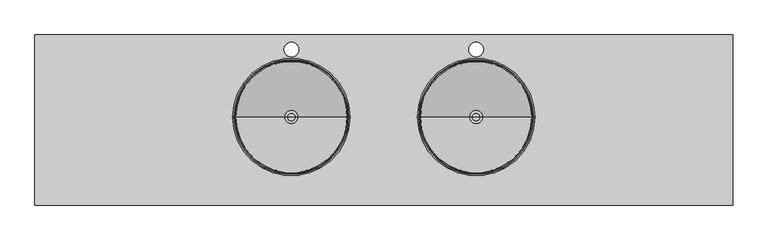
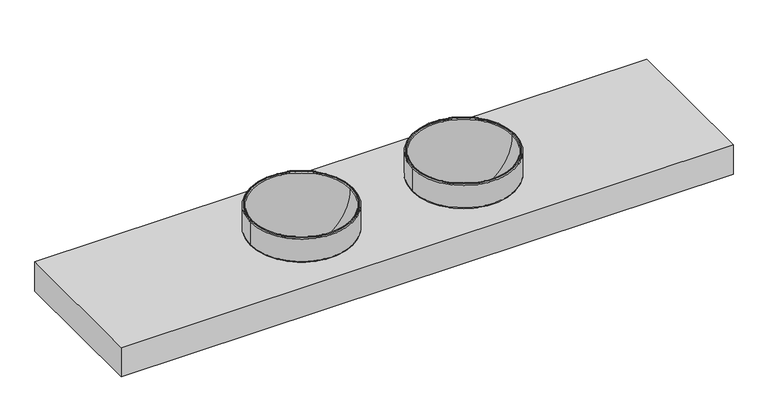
"""IFC4 building model written with IfcOpenShell, lengths in millimetres: flow terminal geometry, CUBIERTA BAÑO : CUBIERTA BAÑO 238CM."""

from ifc_helpers import new_model, si_unit, point, frame, origin, place, context, project, spatial, polyline, circle_curve, ellipse_curve, trimmed, source, transform, mapped, element, save
from ifc_brep_helpers import plane_surface, cylinder_surface, revolved_surface, advanced_brep


def flow_terminal_776c35a8(model_context):
    return source(origin(), model_context, "Body", "AdvancedBrep", [
        advanced_brep(
        [(559.7003264, -280.0, 755.0254698), (159.7003264, -280.0, 755.0254698), (164.7257963, -280.0, 750.0), (554.6748566, -280.0, 750.0), (559.7003264, -280.0, 847.1369003), (159.7003264, -280.0, 847.1369003), (556.5666099, -280.0, 850.2706168), (162.834043, -280.0, 850.2706168), (552.8264261, -280.0, 850.2706168), (166.5742268, -280.0, 850.2706168), (549.9406449, -280.0, 847.3848356), (169.460008, -280.0, 847.3848356), (376.6370457, -280.0, 659.6971154), (342.7636072, -280.0, 659.6971154), (376.6370457, -280.0, 649.6794237), (342.7636072, -280.0, 649.6794237), (549.6748566, -280.0, 781.4886928), (169.7257963, -280.0, 781.4886928), (549.6748566, -280.0, 750.0), (169.7257963, -280.0, 750.0)],
        [
            (0, 1, circle_curve(frame((359.7003264, -280.0, 755.0254698), z_axis=(0.0, 0.0, -1.0), x_axis=(-1.0, 0.0, 0.0)), 200.0)),
            (1, 2, circle_curve(frame((164.7257963, -280.0, 755.0254698), z_axis=(0.0, -1.0, 0.0), x_axis=(-1.0, 0.0, 0.0)), 5.0254698)),
            (2, 3, circle_curve(frame((359.7003264, -280.0, 750.0), z_axis=(0.0, 0.0, 1.0), x_axis=(-1.0, 0.0, 0.0)), 194.9745302)),
            (3, 0, circle_curve(frame((554.6748566, -280.0, 755.0254698), z_axis=(0.0, -1.0, 0.0), x_axis=(1.0, 0.0, 0.0)), 5.0254698)),
            (1, 0, circle_curve(frame((359.7003264, -280.0, 755.0254698), z_axis=(0.0, 0.0, -1.0), x_axis=(-1.0, 0.0, 0.0)), 200.0)),
            (3, 2, circle_curve(frame((359.7003264, -280.0, 750.0), z_axis=(0.0, 0.0, 1.0), x_axis=(-1.0, 0.0, 0.0)), 194.9745302)),
            (4, 5, circle_curve(frame((359.7003264, -280.0, 847.1369003), z_axis=(0.0, 0.0, -1.0), x_axis=(-1.0, 0.0, 0.0)), 200.0)),
            (5, 1),
            (0, 4),
            (5, 4, circle_curve(frame((359.7003264, -280.0, 847.1369003), z_axis=(0.0, 0.0, -1.0), x_axis=(-1.0, 0.0, 0.0)), 200.0)),
            (6, 7, circle_curve(frame((359.7003264, -280.0, 850.2706168), z_axis=(0.0, 0.0, -1.0), x_axis=(-1.0, 0.0, 0.0)), 196.8662835)),
            (7, 5, circle_curve(frame((162.834043, -280.0, 847.1369003), z_axis=(0.0, -1.0, 0.0), x_axis=(-1.0, 0.0, 0.0)), 3.1337165)),
            (4, 6, circle_curve(frame((556.5666099, -280.0, 847.1369003), z_axis=(0.0, -1.0, 0.0), x_axis=(1.0, 0.0, 0.0)), 3.1337165)),
            (7, 6, circle_curve(frame((359.7003264, -280.0, 850.2706168), z_axis=(0.0, 0.0, -1.0), x_axis=(-1.0, 0.0, 0.0)), 196.8662835)),
            (8, 9, circle_curve(frame((359.7003264, -280.0, 850.2706168), z_axis=(0.0, 0.0, -1.0), x_axis=(-1.0, 0.0, 0.0)), 193.1260997)),
            (9, 7),
            (6, 8),
            (9, 8, circle_curve(frame((359.7003264, -280.0, 850.2706168), z_axis=(0.0, 0.0, -1.0), x_axis=(-1.0, 0.0, 0.0)), 193.1260997)),
            (10, 11, circle_curve(frame((359.7003264, -280.0, 847.3848356), z_axis=(0.0, 0.0, -1.0), x_axis=(-1.0, 0.0, 0.0)), 190.2403184)),
            (11, 9, circle_curve(frame((166.5742268, -280.0, 847.3848356), z_axis=(0.0, -1.0, 0.0), x_axis=(-1.0, 0.0, 0.0)), 2.8857812)),
            (8, 10, circle_curve(frame((552.8264261, -280.0, 847.3848356), z_axis=(0.0, -1.0, 0.0), x_axis=(1.0, 0.0, 0.0)), 2.8857812)),
            (11, 10, circle_curve(frame((359.7003264, -280.0, 847.3848356), z_axis=(0.0, 0.0, -1.0), x_axis=(-1.0, 0.0, 0.0)), 190.2403184)),
            (12, 13, circle_curve(frame((359.7003264, -280.0, 659.6971154), z_axis=(0.0, 0.0, -1.0), x_axis=(-1.0, 0.0, 0.0)), 16.9367193)),
            (13, 11, circle_curve(frame((354.0281906, -280.0, 843.9531856), z_axis=(0.0, 1.0, 0.0), x_axis=(-1.0, 0.0, 0.0)), 184.6000819)),
            (10, 12, circle_curve(frame((365.3724623, -280.0, 843.9531856), z_axis=(0.0, 1.0, 0.0), x_axis=(1.0, 0.0, 0.0)), 184.6000819)),
            (13, 12, circle_curve(frame((359.7003264, -280.0, 659.6971154), z_axis=(0.0, 0.0, -1.0), x_axis=(-1.0, 0.0, 0.0)), 16.9367193)),
            (14, 15, circle_curve(frame((359.7003264, -280.0, 649.6794237), z_axis=(0.0, 0.0, -1.0), x_axis=(-1.0, 0.0, 0.0)), 16.9367193)),
            (15, 13),
            (12, 14),
            (15, 14, circle_curve(frame((359.7003264, -280.0, 649.6794237), z_axis=(0.0, 0.0, -1.0), x_axis=(-1.0, 0.0, 0.0)), 16.9367193)),
            (16, 17, circle_curve(frame((359.7003264, -280.0, 781.4886928), z_axis=(0.0, 0.0, -1.0), x_axis=(-1.0, 0.0, 0.0)), 189.9745302)),
            (17, 15, circle_curve(frame((354.0281906, -280.0, 843.9531856), z_axis=(0.0, -1.0, 0.0), x_axis=(-1.0, 0.0, 0.0)), 194.6000653)),
            (14, 16, circle_curve(frame((365.3724623, -280.0, 843.9531856), z_axis=(0.0, -1.0, 0.0), x_axis=(1.0, 0.0, 0.0)), 194.6000653)),
            (17, 16, circle_curve(frame((359.7003264, -280.0, 781.4886928), z_axis=(0.0, 0.0, -1.0), x_axis=(-1.0, 0.0, 0.0)), 189.9745302)),
            (18, 19, circle_curve(frame((359.7003264, -280.0, 750.0), z_axis=(0.0, 0.0, -1.0), x_axis=(-1.0, 0.0, 0.0)), 189.9745302)),
            (19, 17),
            (16, 18),
            (19, 18, circle_curve(frame((359.7003264, -280.0, 750.0), z_axis=(0.0, 0.0, -1.0), x_axis=(-1.0, 0.0, 0.0)), 189.9745302)),
            (2, 19),
            (18, 3),
        ],
        [
            revolved_surface(trimmed(ellipse_curve(frame((164.7257963, -280.0, 755.0254698), z_axis=(0.0, 1.0, 0.0), x_axis=(-1.0, 0.0, 0.0)), 5.0254698, 5.0254698), [point((164.7257963, -280.0, 750.0))], [point((159.7003264, -280.0, 755.0254698))], True, "CARTESIAN"), (359.7003264, -280.0, 700.0), (0.0, 0.0, 1.0)),
            cylinder_surface(frame((359.7003264, -280.0, 700.0), z_axis=(0.0, 0.0, 1.0), x_axis=(-1.0, 0.0, 0.0)), 200.0),
            revolved_surface(trimmed(ellipse_curve(frame((162.834043, -280.0, 847.1369003), z_axis=(0.0, 1.0, 0.0), x_axis=(-1.0, 0.0, 0.0)), 3.1337165, 3.1337165), [point((159.7003264, -280.0, 847.1369003))], [point((162.834043, -280.0, 850.2706168))], True, "CARTESIAN"), (359.7003264, -280.0, 700.0), (0.0, 0.0, 1.0)),
            plane_surface(frame((359.7003264, -280.0, 850.2706168), z_axis=(0.0, 0.0, 1.0), x_axis=(-1.0, 0.0, 0.0))),
            revolved_surface(trimmed(ellipse_curve(frame((166.5742268, -280.0, 847.3848356), z_axis=(0.0, 1.0, 0.0), x_axis=(-1.0, 0.0, 0.0)), 2.8857812, 2.8857812), [point((166.5742268, -280.0, 850.2706168))], [point((169.460008, -280.0, 847.3848356))], True, "CARTESIAN"), (359.7003264, -280.0, 700.0), (0.0, 0.0, 1.0)),
            revolved_surface(trimmed(ellipse_curve(frame((354.0281906, -280.0, 843.9531856), z_axis=(0.0, -1.0, 0.0), x_axis=(-1.0, 0.0, 0.0)), 184.6000819, 184.6000819), [point((169.460008, -280.0, 847.3848356))], [point((342.7636072, -280.0, 659.6971154))], True, "CARTESIAN"), (359.7003264, -280.0, 700.0), (0.0, 0.0, 1.0)),
            revolved_surface(polyline([(342.7636071, -280.0, 659.6971154), (342.7636071, -280.0, 649.6794237)]), (359.7003264, -280.0, 700.0), (0.0, 0.0, 1.0)),
            revolved_surface(trimmed(ellipse_curve(frame((354.0281906, -280.0, 843.9531856), z_axis=(0.0, 1.0, 0.0), x_axis=(-1.0, 0.0, 0.0)), 194.6000653, 194.6000653), [point((342.7636072, -280.0, 649.6794237))], [point((169.7257963, -280.0, 781.4886928))], True, "CARTESIAN"), (359.7003264, -280.0, 700.0), (0.0, 0.0, 1.0)),
            revolved_surface(polyline([(169.7257962, -280.0, 781.4886928), (169.7257962, -280.0, 750.0)]), (359.7003264, -280.0, 700.0), (0.0, 0.0, 1.0)),
            plane_surface(frame((359.7003264, -280.0, 750.0), z_axis=(0.0, 0.0, -1.0), x_axis=(-1.0, 0.0, 0.0))),
        ],
        [
            (0, [[1, 2, 3, 4]]),
            (0, [[5, -4, 6, -2]]),
            (1, [[7, 8, -1, 9]]),
            (1, [[10, -9, -5, -8]]),
            (2, [[11, 12, -7, 13]]),
            (2, [[14, -13, -10, -12]]),
            (3, [[15, 16, -11, 17]]),
            (3, [[18, -17, -14, -16]]),
            (4, [[19, 20, -15, 21]]),
            (4, [[22, -21, -18, -20]]),
            (5, [[23, 24, -19, 25]]),
            (5, [[26, -25, -22, -24]]),
            (6, [[27, 28, -23, 29]]),
            (6, [[30, -29, -26, -28]]),
            (7, [[31, 32, -27, 33]]),
            (7, [[34, -33, -30, -32]]),
            (8, [[35, 36, -31, 37]]),
            (8, [[38, -37, -34, -36]]),
            (9, [[-3, 39, -35, 40]]),
            (9, [[-6, -40, -38, -39]]),
        ],
    ),
        advanced_brep(
        [(373.4382327, -280.0, 661.875), (345.9624201, -280.0, 661.875), (337.7003264, -280.0, 661.875), (381.7003264, -280.0, 661.875), (373.4382327, -280.0, 643.7247134), (345.9624201, -280.0, 643.7247134), (359.7003264, -280.0, 643.7247134), (376.7003264, -280.0, 640.0), (342.7003264, -280.0, 640.0), (359.7003264, -280.0, 640.0), (376.7003264, -280.0, 660.339751), (342.7003264, -280.0, 660.339751), (381.7003264, -280.0, 660.339751), (337.7003264, -280.0, 660.339751)],
        [
            (0, 1, circle_curve(frame((359.7003264, -280.0, 661.875), z_axis=(0.0, 0.0, -1.0), x_axis=(-1.0, 0.0, 0.0)), 13.7379063)),
            (1, 2),
            (2, 3, circle_curve(frame((359.7003264, -280.0, 661.875), z_axis=(0.0, 0.0, 1.0), x_axis=(-1.0, 0.0, 0.0)), 22.0)),
            (3, 0),
            (1, 0, circle_curve(frame((359.7003264, -280.0, 661.875), z_axis=(0.0, 0.0, -1.0), x_axis=(-1.0, 0.0, 0.0)), 13.7379063)),
            (3, 2, circle_curve(frame((359.7003264, -280.0, 661.875), z_axis=(0.0, 0.0, 1.0), x_axis=(-1.0, 0.0, 0.0)), 22.0)),
            (4, 5, circle_curve(frame((359.7003264, -280.0, 643.7247134), z_axis=(0.0, 0.0, -1.0), x_axis=(-1.0, 0.0, 0.0)), 13.7379063)),
            (5, 1),
            (0, 4),
            (5, 4, circle_curve(frame((359.7003264, -280.0, 643.7247134), z_axis=(0.0, 0.0, -1.0), x_axis=(-1.0, 0.0, 0.0)), 13.7379063)),
            (6, 5),
            (4, 6),
            (7, 8, circle_curve(frame((359.7003264, -280.0, 640.0), z_axis=(0.0, 0.0, -1.0), x_axis=(-1.0, 0.0, 0.0)), 17.0)),
            (8, 9),
            (9, 7),
            (8, 7, circle_curve(frame((359.7003264, -280.0, 640.0), z_axis=(0.0, 0.0, -1.0), x_axis=(-1.0, 0.0, 0.0)), 17.0)),
            (10, 11, circle_curve(frame((359.7003264, -280.0, 660.339751), z_axis=(0.0, 0.0, -1.0), x_axis=(-1.0, 0.0, 0.0)), 17.0)),
            (11, 8),
            (7, 10),
            (11, 10, circle_curve(frame((359.7003264, -280.0, 660.339751), z_axis=(0.0, 0.0, -1.0), x_axis=(-1.0, 0.0, 0.0)), 17.0)),
            (12, 13, circle_curve(frame((359.7003264, -280.0, 660.339751), z_axis=(0.0, 0.0, -1.0), x_axis=(-1.0, 0.0, 0.0)), 22.0)),
            (13, 11),
            (10, 12),
            (13, 12, circle_curve(frame((359.7003264, -280.0, 660.339751), z_axis=(0.0, 0.0, -1.0), x_axis=(-1.0, 0.0, 0.0)), 22.0)),
            (2, 13),
            (12, 3),
        ],
        [
            plane_surface(frame((359.7003264, -280.0, 661.875), z_axis=(0.0, 0.0, 1.0), x_axis=(-1.0, 0.0, 0.0))),
            revolved_surface(polyline([(345.9624201, -280.0, 661.875), (345.9624201, -280.0, 643.7247134)]), (359.7003264, -280.0, 639.8833255), (0.0, 0.0, 1.0)),
            plane_surface(frame((359.7003264, -280.0, 643.7247134), z_axis=(0.0, 0.0, 1.0), x_axis=(-1.0, 0.0, 0.0))),
            plane_surface(frame((359.7003264, -280.0, 640.0), z_axis=(0.0, 0.0, -1.0), x_axis=(-1.0, 0.0, 0.0))),
            cylinder_surface(frame((359.7003264, -280.0, 639.8833255), z_axis=(0.0, 0.0, 1.0), x_axis=(-1.0, 0.0, 0.0)), 17.0),
            plane_surface(frame((359.7003264, -280.0, 660.339751), z_axis=(0.0, 0.0, -1.0), x_axis=(-1.0, 0.0, 0.0))),
            cylinder_surface(frame((359.7003264, -280.0, 639.8833255), z_axis=(0.0, 0.0, 1.0), x_axis=(-1.0, 0.0, 0.0)), 22.0),
        ],
        [
            (0, [[1, 2, 3, 4]]),
            (0, [[5, -4, 6, -2]]),
            (1, [[7, 8, -1, 9]]),
            (1, [[10, -9, -5, -8]]),
            (2, [[11, -7, 12]]),
            (2, [[-12, -10, -11]]),
            (3, [[13, 14, 15]]),
            (3, [[16, -15, -14]]),
            (4, [[17, 18, -13, 19]]),
            (4, [[20, -19, -16, -18]]),
            (5, [[21, 22, -17, 23]]),
            (5, [[24, -23, -20, -22]]),
            (6, [[-3, 25, -21, 26]]),
            (6, [[-6, -26, -24, -25]]),
        ],
    ),
        advanced_brep(
        [(-70.2996736, -280.0, 755.0254698), (-470.2996736, -280.0, 755.0254698), (-465.2742037, -280.0, 750.0), (-75.3251434, -280.0, 750.0), (-70.2996736, -280.0, 847.1369003), (-470.2996736, -280.0, 847.1369003), (-73.4333901, -280.0, 850.2706168), (-467.165957, -280.0, 850.2706168), (-77.1735739, -280.0, 850.2706168), (-463.4257732, -280.0, 850.2706168), (-80.0593551, -280.0, 847.3848356), (-460.539992, -280.0, 847.3848356), (-253.3629543, -280.0, 659.6971154), (-287.2363928, -280.0, 659.6971154), (-253.3629543, -280.0, 649.6794237), (-287.2363928, -280.0, 649.6794237), (-80.3251434, -280.0, 781.4886928), (-460.2742037, -280.0, 781.4886928), (-80.3251434, -280.0, 750.0), (-460.2742037, -280.0, 750.0)],
        [
            (0, 1, circle_curve(frame((-270.2996736, -280.0, 755.0254698), z_axis=(0.0, 0.0, -1.0), x_axis=(-1.0, 0.0, 0.0)), 200.0)),
            (1, 2, circle_curve(frame((-465.2742037, -280.0, 755.0254698), z_axis=(0.0, -1.0, 0.0), x_axis=(-1.0, 0.0, 0.0)), 5.0254698)),
            (2, 3, circle_curve(frame((-270.2996736, -280.0, 750.0), z_axis=(0.0, 0.0, 1.0), x_axis=(-1.0, 0.0, 0.0)), 194.9745302)),
            (3, 0, circle_curve(frame((-75.3251434, -280.0, 755.0254698), z_axis=(0.0, -1.0, 0.0), x_axis=(1.0, 0.0, 0.0)), 5.0254698)),
            (1, 0, circle_curve(frame((-270.2996736, -280.0, 755.0254698), z_axis=(0.0, 0.0, -1.0), x_axis=(-1.0, 0.0, 0.0)), 200.0)),
            (3, 2, circle_curve(frame((-270.2996736, -280.0, 750.0), z_axis=(0.0, 0.0, 1.0), x_axis=(-1.0, 0.0, 0.0)), 194.9745302)),
            (4, 5, circle_curve(frame((-270.2996736, -280.0, 847.1369003), z_axis=(0.0, 0.0, -1.0), x_axis=(-1.0, 0.0, 0.0)), 200.0)),
            (5, 1),
            (0, 4),
            (5, 4, circle_curve(frame((-270.2996736, -280.0, 847.1369003), z_axis=(0.0, 0.0, -1.0), x_axis=(-1.0, 0.0, 0.0)), 200.0)),
            (6, 7, circle_curve(frame((-270.2996736, -280.0, 850.2706168), z_axis=(0.0, 0.0, -1.0), x_axis=(-1.0, 0.0, 0.0)), 196.8662835)),
            (7, 5, circle_curve(frame((-467.165957, -280.0, 847.1369003), z_axis=(0.0, -1.0, 0.0), x_axis=(-1.0, 0.0, 0.0)), 3.1337165)),
            (4, 6, circle_curve(frame((-73.4333901, -280.0, 847.1369003), z_axis=(0.0, -1.0, 0.0), x_axis=(1.0, 0.0, 0.0)), 3.1337165)),
            (7, 6, circle_curve(frame((-270.2996736, -280.0, 850.2706168), z_axis=(0.0, 0.0, -1.0), x_axis=(-1.0, 0.0, 0.0)), 196.8662835)),
            (8, 9, circle_curve(frame((-270.2996736, -280.0, 850.2706168), z_axis=(0.0, 0.0, -1.0), x_axis=(-1.0, 0.0, 0.0)), 193.1260997)),
            (9, 7),
            (6, 8),
            (9, 8, circle_curve(frame((-270.2996736, -280.0, 850.2706168), z_axis=(0.0, 0.0, -1.0), x_axis=(-1.0, 0.0, 0.0)), 193.1260997)),
            (10, 11, circle_curve(frame((-270.2996736, -280.0, 847.3848356), z_axis=(0.0, 0.0, -1.0), x_axis=(-1.0, 0.0, 0.0)), 190.2403184)),
            (11, 9, circle_curve(frame((-463.4257732, -280.0, 847.3848356), z_axis=(0.0, -1.0, 0.0), x_axis=(-1.0, 0.0, 0.0)), 2.8857812)),
            (8, 10, circle_curve(frame((-77.1735739, -280.0, 847.3848356), z_axis=(0.0, -1.0, 0.0), x_axis=(1.0, 0.0, 0.0)), 2.8857812)),
            (11, 10, circle_curve(frame((-270.2996736, -280.0, 847.3848356), z_axis=(0.0, 0.0, -1.0), x_axis=(-1.0, 0.0, 0.0)), 190.2403184)),
            (12, 13, circle_curve(frame((-270.2996736, -280.0, 659.6971154), z_axis=(0.0, 0.0, -1.0), x_axis=(-1.0, 0.0, 0.0)), 16.9367193)),
            (13, 11, circle_curve(frame((-275.9718094, -280.0, 843.9531856), z_axis=(0.0, 1.0, 0.0), x_axis=(-1.0, 0.0, 0.0)), 184.6000819)),
            (10, 12, circle_curve(frame((-264.6275377, -280.0, 843.9531856), z_axis=(0.0, 1.0, 0.0), x_axis=(1.0, 0.0, 0.0)), 184.6000819)),
            (13, 12, circle_curve(frame((-270.2996736, -280.0, 659.6971154), z_axis=(0.0, 0.0, -1.0), x_axis=(-1.0, 0.0, 0.0)), 16.9367193)),
            (14, 15, circle_curve(frame((-270.2996736, -280.0, 649.6794237), z_axis=(0.0, 0.0, -1.0), x_axis=(-1.0, 0.0, 0.0)), 16.9367193)),
            (15, 13),
            (12, 14),
            (15, 14, circle_curve(frame((-270.2996736, -280.0, 649.6794237), z_axis=(0.0, 0.0, -1.0), x_axis=(-1.0, 0.0, 0.0)), 16.9367193)),
            (16, 17, circle_curve(frame((-270.2996736, -280.0, 781.4886928), z_axis=(0.0, 0.0, -1.0), x_axis=(-1.0, 0.0, 0.0)), 189.9745302)),
            (17, 15, circle_curve(frame((-275.9718094, -280.0, 843.9531856), z_axis=(0.0, -1.0, 0.0), x_axis=(-1.0, 0.0, 0.0)), 194.6000653)),
            (14, 16, circle_curve(frame((-264.6275377, -280.0, 843.9531856), z_axis=(0.0, -1.0, 0.0), x_axis=(1.0, 0.0, 0.0)), 194.6000653)),
            (17, 16, circle_curve(frame((-270.2996736, -280.0, 781.4886928), z_axis=(0.0, 0.0, -1.0), x_axis=(-1.0, 0.0, 0.0)), 189.9745302)),
            (18, 19, circle_curve(frame((-270.2996736, -280.0, 750.0), z_axis=(0.0, 0.0, -1.0), x_axis=(-1.0, 0.0, 0.0)), 189.9745302)),
            (19, 17),
            (16, 18),
            (19, 18, circle_curve(frame((-270.2996736, -280.0, 750.0), z_axis=(0.0, 0.0, -1.0), x_axis=(-1.0, 0.0, 0.0)), 189.9745302)),
            (2, 19),
            (18, 3),
        ],
        [
            revolved_surface(trimmed(ellipse_curve(frame((-465.2742037, -280.0, 755.0254698), z_axis=(0.0, 1.0, 0.0), x_axis=(-1.0, 0.0, 0.0)), 5.0254698, 5.0254698), [point((-465.2742037, -280.0, 750.0))], [point((-470.2996736, -280.0, 755.0254698))], True, "CARTESIAN"), (-270.2996736, -280.0, 700.0), (0.0, 0.0, 1.0)),
            cylinder_surface(frame((-270.2996736, -280.0, 700.0), z_axis=(0.0, 0.0, 1.0), x_axis=(-1.0, 0.0, 0.0)), 200.0),
            revolved_surface(trimmed(ellipse_curve(frame((-467.165957, -280.0, 847.1369003), z_axis=(0.0, 1.0, 0.0), x_axis=(-1.0, 0.0, 0.0)), 3.1337165, 3.1337165), [point((-470.2996736, -280.0, 847.1369003))], [point((-467.165957, -280.0, 850.2706168))], True, "CARTESIAN"), (-270.2996736, -280.0, 700.0), (0.0, 0.0, 1.0)),
            plane_surface(frame((-270.2996736, -280.0, 850.2706168), z_axis=(0.0, 0.0, 1.0), x_axis=(-1.0, 0.0, 0.0))),
            revolved_surface(trimmed(ellipse_curve(frame((-463.4257732, -280.0, 847.3848356), z_axis=(0.0, 1.0, 0.0), x_axis=(-1.0, 0.0, 0.0)), 2.8857812, 2.8857812), [point((-463.4257732, -280.0, 850.2706168))], [point((-460.539992, -280.0, 847.3848356))], True, "CARTESIAN"), (-270.2996736, -280.0, 700.0), (0.0, 0.0, 1.0)),
            revolved_surface(trimmed(ellipse_curve(frame((-275.9718094, -280.0, 843.9531856), z_axis=(0.0, -1.0, 0.0), x_axis=(-1.0, 0.0, 0.0)), 184.6000819, 184.6000819), [point((-460.539992, -280.0, 847.3848356))], [point((-287.2363928, -280.0, 659.6971154))], True, "CARTESIAN"), (-270.2996736, -280.0, 700.0), (0.0, 0.0, 1.0)),
            revolved_surface(polyline([(-287.2363929, -280.0, 659.6971154), (-287.2363929, -280.0, 649.6794237)]), (-270.2996736, -280.0, 700.0), (0.0, 0.0, 1.0)),
            revolved_surface(trimmed(ellipse_curve(frame((-275.9718094, -280.0, 843.9531856), z_axis=(0.0, 1.0, 0.0), x_axis=(-1.0, 0.0, 0.0)), 194.6000653, 194.6000653), [point((-287.2363928, -280.0, 649.6794237))], [point((-460.2742037, -280.0, 781.4886928))], True, "CARTESIAN"), (-270.2996736, -280.0, 700.0), (0.0, 0.0, 1.0)),
            revolved_surface(polyline([(-460.2742038, -280.0, 781.4886928), (-460.2742038, -280.0, 750.0)]), (-270.2996736, -280.0, 700.0), (0.0, 0.0, 1.0)),
            plane_surface(frame((-270.2996736, -280.0, 750.0), z_axis=(0.0, 0.0, -1.0), x_axis=(-1.0, 0.0, 0.0))),
        ],
        [
            (0, [[1, 2, 3, 4]]),
            (0, [[5, -4, 6, -2]]),
            (1, [[7, 8, -1, 9]]),
            (1, [[10, -9, -5, -8]]),
            (2, [[11, 12, -7, 13]]),
            (2, [[14, -13, -10, -12]]),
            (3, [[15, 16, -11, 17]]),
            (3, [[18, -17, -14, -16]]),
            (4, [[19, 20, -15, 21]]),
            (4, [[22, -21, -18, -20]]),
            (5, [[23, 24, -19, 25]]),
            (5, [[26, -25, -22, -24]]),
            (6, [[27, 28, -23, 29]]),
            (6, [[30, -29, -26, -28]]),
            (7, [[31, 32, -27, 33]]),
            (7, [[34, -33, -30, -32]]),
            (8, [[35, 36, -31, 37]]),
            (8, [[38, -37, -34, -36]]),
            (9, [[-3, 39, -35, 40]]),
            (9, [[-6, -40, -38, -39]]),
        ],
    ),
        advanced_brep(
        [(-256.5617673, -280.0, 661.875), (-284.0375799, -280.0, 661.875), (-292.2996736, -280.0, 661.875), (-248.2996736, -280.0, 661.875), (-256.5617673, -280.0, 643.7247134), (-284.0375799, -280.0, 643.7247134), (-270.2996736, -280.0, 643.7247134), (-253.2996736, -280.0, 640.0), (-287.2996736, -280.0, 640.0), (-270.2996736, -280.0, 640.0), (-253.2996736, -280.0, 660.339751), (-287.2996736, -280.0, 660.339751), (-248.2996736, -280.0, 660.339751), (-292.2996736, -280.0, 660.339751)],
        [
            (0, 1, circle_curve(frame((-270.2996736, -280.0, 661.875), z_axis=(0.0, 0.0, -1.0), x_axis=(-1.0, 0.0, 0.0)), 13.7379063)),
            (1, 2),
            (2, 3, circle_curve(frame((-270.2996736, -280.0, 661.875), z_axis=(0.0, 0.0, 1.0), x_axis=(-1.0, 0.0, 0.0)), 22.0)),
            (3, 0),
            (1, 0, circle_curve(frame((-270.2996736, -280.0, 661.875), z_axis=(0.0, 0.0, -1.0), x_axis=(-1.0, 0.0, 0.0)), 13.7379063)),
            (3, 2, circle_curve(frame((-270.2996736, -280.0, 661.875), z_axis=(0.0, 0.0, 1.0), x_axis=(-1.0, 0.0, 0.0)), 22.0)),
            (4, 5, circle_curve(frame((-270.2996736, -280.0, 643.7247134), z_axis=(0.0, 0.0, -1.0), x_axis=(-1.0, 0.0, 0.0)), 13.7379063)),
            (5, 1),
            (0, 4),
            (5, 4, circle_curve(frame((-270.2996736, -280.0, 643.7247134), z_axis=(0.0, 0.0, -1.0), x_axis=(-1.0, 0.0, 0.0)), 13.7379063)),
            (6, 5),
            (4, 6),
            (7, 8, circle_curve(frame((-270.2996736, -280.0, 640.0), z_axis=(0.0, 0.0, -1.0), x_axis=(-1.0, 0.0, 0.0)), 17.0)),
            (8, 9),
            (9, 7),
            (8, 7, circle_curve(frame((-270.2996736, -280.0, 640.0), z_axis=(0.0, 0.0, -1.0), x_axis=(-1.0, 0.0, 0.0)), 17.0)),
            (10, 11, circle_curve(frame((-270.2996736, -280.0, 660.339751), z_axis=(0.0, 0.0, -1.0), x_axis=(-1.0, 0.0, 0.0)), 17.0)),
            (11, 8),
            (7, 10),
            (11, 10, circle_curve(frame((-270.2996736, -280.0, 660.339751), z_axis=(0.0, 0.0, -1.0), x_axis=(-1.0, 0.0, 0.0)), 17.0)),
            (12, 13, circle_curve(frame((-270.2996736, -280.0, 660.339751), z_axis=(0.0, 0.0, -1.0), x_axis=(-1.0, 0.0, 0.0)), 22.0)),
            (13, 11),
            (10, 12),
            (13, 12, circle_curve(frame((-270.2996736, -280.0, 660.339751), z_axis=(0.0, 0.0, -1.0), x_axis=(-1.0, 0.0, 0.0)), 22.0)),
            (2, 13),
            (12, 3),
        ],
        [
            plane_surface(frame((-270.2996736, -280.0, 661.875), z_axis=(0.0, 0.0, 1.0), x_axis=(-1.0, 0.0, 0.0))),
            revolved_surface(polyline([(-284.0375799, -280.0, 661.875), (-284.0375799, -280.0, 643.7247134)]), (-270.2996736, -280.0, 639.8833255), (0.0, 0.0, 1.0)),
            plane_surface(frame((-270.2996736, -280.0, 643.7247134), z_axis=(0.0, 0.0, 1.0), x_axis=(-1.0, 0.0, 0.0))),
            plane_surface(frame((-270.2996736, -280.0, 640.0), z_axis=(0.0, 0.0, -1.0), x_axis=(-1.0, 0.0, 0.0))),
            cylinder_surface(frame((-270.2996736, -280.0, 639.8833255), z_axis=(0.0, 0.0, 1.0), x_axis=(-1.0, 0.0, 0.0)), 17.0),
            plane_surface(frame((-270.2996736, -280.0, 660.339751), z_axis=(0.0, 0.0, -1.0), x_axis=(-1.0, 0.0, 0.0))),
            cylinder_surface(frame((-270.2996736, -280.0, 639.8833255), z_axis=(0.0, 0.0, 1.0), x_axis=(-1.0, 0.0, 0.0)), 22.0),
        ],
        [
            (0, [[1, 2, 3, 4]]),
            (0, [[5, -4, 6, -2]]),
            (1, [[7, 8, -1, 9]]),
            (1, [[10, -9, -5, -8]]),
            (2, [[11, -7, 12]]),
            (2, [[-12, -10, -11]]),
            (3, [[13, 14, 15]]),
            (3, [[16, -15, -14]]),
            (4, [[17, 18, -13, 19]]),
            (4, [[20, -19, -16, -18]]),
            (5, [[21, 22, -17, 23]]),
            (5, [[24, -23, -20, -22]]),
            (6, [[-3, 25, -21, 26]]),
            (6, [[-6, -26, -24, -25]]),
        ],
    ),
        advanced_brep(
        [(-1125.2996736, 0.0, 730.2844037), (1214.7003264, 0.0, 730.2844037), (1214.7003264, -560.0, 730.2844037), (-1125.2996736, -560.0, 730.2844037), (-270.2996736, -25.0, 730.2844037), (-270.2996736, -75.0, 730.2844037), (-270.2996736, -100.0, 730.2844037), (-270.2996736, -460.0, 730.2844037), (359.7003264, -25.0, 730.2844037), (359.7003264, -75.0, 730.2844037), (359.7003264, -100.0, 730.2844037), (359.7003264, -460.0, 730.2844037), (1234.7003264, 0.0, 750.0), (-1145.2996736, 0.0, 750.0), (-1145.2996736, -580.0, 750.0), (1234.7003264, -580.0, 750.0), (-270.2996736, -25.0, 750.0), (-270.2996736, -75.0, 750.0), (-270.2996736, -100.0, 750.0), (-270.2996736, -460.0, 750.0), (359.7003264, -25.0, 750.0), (359.7003264, -75.0, 750.0), (359.7003264, -100.0, 750.0), (359.7003264, -460.0, 750.0), (1234.7003264, 0.0, 630.0), (1214.7003264, 0.0, 630.0), (-1125.2996736, 0.0, 630.0), (-1145.2996736, 0.0, 630.0), (-1145.2996736, -580.0, 630.0), (1234.7003264, -580.0, 630.0), (-1125.2996736, -560.0, 630.0), (1214.7003264, -560.0, 630.0)],
        [
            (0, 1),
            (1, 2),
            (2, 3),
            (3, 0),
            (4, 5, circle_curve(frame((-270.2996736, -50.0, 730.2844037), z_axis=(0.0, 0.0, 1.0), x_axis=(0.0, -1.0, 0.0)), 25.0)),
            (5, 4, circle_curve(frame((-270.2996736, -50.0, 730.2844037), z_axis=(0.0, 0.0, 1.0), x_axis=(0.0, -1.0, 0.0)), 25.0)),
            (6, 7, circle_curve(frame((-270.2996736, -280.0, 730.2844037), z_axis=(0.0, 0.0, 1.0), x_axis=(0.0, -1.0, 0.0)), 180.0)),
            (7, 6, circle_curve(frame((-270.2996736, -280.0, 730.2844037), z_axis=(0.0, 0.0, 1.0), x_axis=(0.0, -1.0, 0.0)), 180.0)),
            (8, 9, circle_curve(frame((359.7003264, -50.0, 730.2844037), z_axis=(0.0, 0.0, 1.0), x_axis=(0.0, -1.0, 0.0)), 25.0)),
            (9, 8, circle_curve(frame((359.7003264, -50.0, 730.2844037), z_axis=(0.0, 0.0, 1.0), x_axis=(0.0, -1.0, 0.0)), 25.0)),
            (10, 11, circle_curve(frame((359.7003264, -280.0, 730.2844037), z_axis=(0.0, 0.0, 1.0), x_axis=(0.0, -1.0, 0.0)), 180.0)),
            (11, 10, circle_curve(frame((359.7003264, -280.0, 730.2844037), z_axis=(0.0, 0.0, 1.0), x_axis=(0.0, -1.0, 0.0)), 180.0)),
            (12, 13),
            (13, 14),
            (14, 15),
            (15, 12),
            (16, 17, circle_curve(frame((-270.2996736, -50.0, 750.0), z_axis=(0.0, 0.0, -1.0), x_axis=(0.0, -1.0, 0.0)), 25.0)),
            (17, 16, circle_curve(frame((-270.2996736, -50.0, 750.0), z_axis=(0.0, 0.0, -1.0), x_axis=(0.0, -1.0, 0.0)), 25.0)),
            (18, 19, circle_curve(frame((-270.2996736, -280.0, 750.0), z_axis=(0.0, 0.0, -1.0), x_axis=(0.0, -1.0, 0.0)), 180.0)),
            (19, 18, circle_curve(frame((-270.2996736, -280.0, 750.0), z_axis=(0.0, 0.0, -1.0), x_axis=(0.0, -1.0, 0.0)), 180.0)),
            (20, 21, circle_curve(frame((359.7003264, -50.0, 750.0), z_axis=(0.0, 0.0, -1.0), x_axis=(0.0, -1.0, 0.0)), 25.0)),
            (21, 20, circle_curve(frame((359.7003264, -50.0, 750.0), z_axis=(0.0, 0.0, -1.0), x_axis=(0.0, -1.0, 0.0)), 25.0)),
            (22, 23, circle_curve(frame((359.7003264, -280.0, 750.0), z_axis=(0.0, 0.0, -1.0), x_axis=(0.0, -1.0, 0.0)), 180.0)),
            (23, 22, circle_curve(frame((359.7003264, -280.0, 750.0), z_axis=(0.0, 0.0, -1.0), x_axis=(0.0, -1.0, 0.0)), 180.0)),
            (12, 24),
            (24, 25),
            (25, 1),
            (0, 26),
            (26, 27),
            (27, 13),
            (27, 28),
            (28, 14),
            (28, 29),
            (29, 15),
            (29, 24),
            (5, 17),
            (16, 4),
            (7, 19),
            (18, 6),
            (9, 21),
            (20, 8),
            (11, 23),
            (22, 10),
            (26, 30),
            (30, 31),
            (31, 25),
            (31, 2),
            (30, 3),
        ],
        [
            plane_surface(frame((-1145.2996736, 0.0, 730.2844037), z_axis=(0.0, 0.0, -1.0), x_axis=(1.0, 0.0, 0.0))),
            plane_surface(frame((-1145.2996736, 0.0, 750.0), z_axis=(0.0, 0.0, 1.0), x_axis=(-1.0, 0.0, 0.0))),
            plane_surface(frame((1234.7003264, 0.0, 750.0), z_axis=(0.0, 1.0, 0.0), x_axis=(0.0, 0.0, -1.0))),
            plane_surface(frame((-1145.2996736, 0.0, 750.0), z_axis=(-1.0, 0.0, 0.0), x_axis=(0.0, 0.0, -1.0))),
            plane_surface(frame((-1145.2996736, -580.0, 750.0), z_axis=(0.0, -1.0, 0.0), x_axis=(0.0, 0.0, -1.0))),
            plane_surface(frame((1234.7003264, -580.0, 750.0), z_axis=(1.0, 0.0, 0.0), x_axis=(0.0, 0.0, -1.0))),
            revolved_surface(polyline([(-270.2996736, -75.0, 730.2844037), (-270.2996736, -75.0, 750.0)]), (-270.2996736, -50.0, 750.0), (0.0, 0.0, -1.0)),
            revolved_surface(polyline([(-270.2996736, -460.0, 730.2844037), (-270.2996736, -460.0, 750.0)]), (-270.2996736, -280.0, 750.0), (0.0, 0.0, -1.0)),
            revolved_surface(polyline([(359.7003264, -75.0, 730.2844037), (359.7003264, -75.0, 750.0)]), (359.7003264, -50.0, 750.0), (0.0, 0.0, -1.0)),
            revolved_surface(polyline([(359.7003264, -460.0, 730.2844037), (359.7003264, -460.0, 750.0)]), (359.7003264, -280.0, 750.0), (0.0, 0.0, -1.0)),
            plane_surface(frame((-1145.2996736, -580.0, 630.0), z_axis=(0.0, 0.0, -1.0), x_axis=(-1.0, 0.0, 0.0))),
            plane_surface(frame((1214.7003264, 0.0, 730.2844037), z_axis=(-1.0, 0.0, 0.0), x_axis=(0.0, 0.0, -1.0))),
            plane_surface(frame((1214.7003264, -560.0, 730.2844037), z_axis=(0.0, 1.0, 0.0), x_axis=(0.0, 0.0, -1.0))),
            plane_surface(frame((-1125.2996736, -560.0, 730.2844037), z_axis=(1.0, 0.0, 0.0), x_axis=(0.0, 0.0, -1.0))),
        ],
        [
            (0, [[1, 2, 3, 4], [5, 6], [7, 8], [9, 10], [11, 12]]),
            (1, [[13, 14, 15, 16], [17, 18], [19, 20], [21, 22], [23, 24]]),
            (2, [[-13, 25, 26, 27, -1, 28, 29, 30]]),
            (3, [[-14, -30, 31, 32]]),
            (4, [[-15, -32, 33, 34]]),
            (5, [[-25, -16, -34, 35]]),
            (6, [[-6, 36, -17, 37]]),
            (6, [[-5, -37, -18, -36]]),
            (7, [[-8, 38, -19, 39]]),
            (7, [[-7, -39, -20, -38]]),
            (8, [[-10, 40, -21, 41]]),
            (8, [[-9, -41, -22, -40]]),
            (9, [[-12, 42, -23, 43]]),
            (9, [[-11, -43, -24, -42]]),
            (10, [[-31, -29, 44, 45, 46, -26, -35, -33]]),
            (11, [[-46, 47, -2, -27]]),
            (12, [[-45, 48, -3, -47]]),
            (13, [[-44, -28, -4, -48]]),
        ],
    ),
    ])


if __name__ == "__main__":
    model = new_model("IFC4")
    model_context = context("Model", 3, world=origin())
    ifc_project = project(units=[si_unit("LENGTHUNIT", "METRE", prefix="MILLI")], contexts=[model_context])
    site = spatial("IfcSite", under=ifc_project)
    building = spatial("IfcBuilding", under=site)
    placement = place(None, origin())
    flow_terminal_shape = flow_terminal_776c35a8(model_context)
    element("IfcFlowTerminal", 1, ObjectType="CUBIERTA BAÑO : CUBIERTA BAÑO 238CM", at=placement, inside=building, context=model_context, shape_type="MappedRepresentation", body=[
        mapped(flow_terminal_shape, transform((0.0, 0.0, 0.0), x_axis=(1.0, 0.0, 0.0), y_axis=(0.0, 1.0, 0.0), z_axis=(0.0, 0.0, 1.0))),
    ])
    save(model, "model.ifc")
